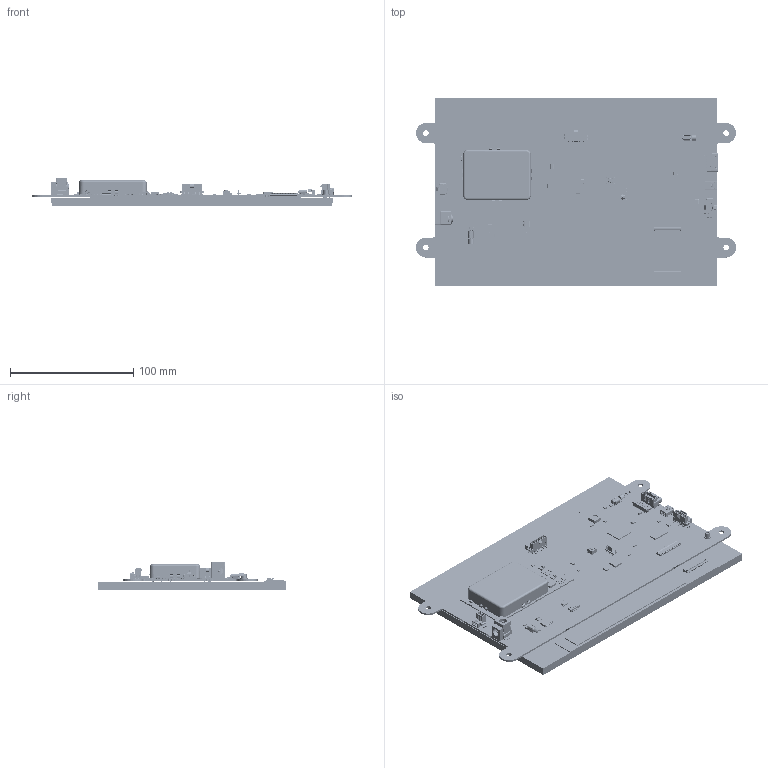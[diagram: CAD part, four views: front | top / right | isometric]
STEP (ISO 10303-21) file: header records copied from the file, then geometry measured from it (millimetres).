
FILE_DESCRIPTION (( 'STEP AP214' ), '1' );
FILE_NAME ('HTT101A-IPS-1280800A (TPR) Rev.A.STEP', '2024-06-19T19:20:54', ( '' ), ( '' ), 'SwSTEP 2.0', 'SolidWorks 2021', '' );
FILE_SCHEMA (( 'AUTOMOTIVE_DESIGN' ));
Length unit declared in the file: millimetre
Products named in the file (6): HTT101A-IPS-1280800A (TPR) Rev.A; MOP-TFT1280800-10.1A; XF2M_4015_1A; TPR; HTT101A-IPS-1280800A R3.1.1
Assembly tree (5 placements, depth 3):
  HTT101A-IPS-1280800A (TPR) Rev.A
    HTT101A-IPS-1280800A R3.1.1
    MOP-TFT1280800-10.1A
      MOP-TFT1280800-10.1A
      XF2M_4015_1A
    TPR
Bounding box: 260.2 x 152.74 x 22.81 mm (x, y, z)
Volume: 237297.8 mm3; surface area: 241988 mm2
Topology: 4 solids, 855 shells, 21589 faces, 58202 edges, 37637 vertices
Faces by surface type: plane 15185, cylinder 3854, bspline 2124, sphere 268, torus 118, cone 40
Entity records: 984034 total; most frequent: CARTESIAN_POINT 249872, ORIENTED_EDGE 114602, DIRECTION 86926, EDGE_CURVE 57955, VERTEX_POINT 37628, LINE 36746, VECTOR 36746, AXIS2_PLACEMENT_3D 25090
